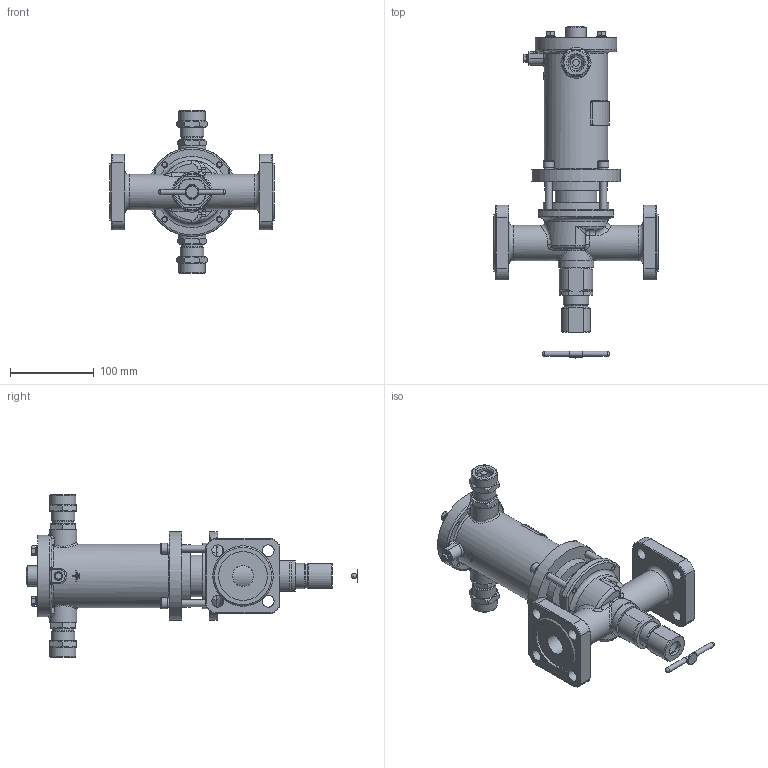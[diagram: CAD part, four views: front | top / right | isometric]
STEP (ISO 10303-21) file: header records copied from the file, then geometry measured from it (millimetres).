
FILE_DESCRIPTION(('STEP AP203'), '1');
FILE_NAME('ÑÅÍÑ DN25PN25-Â-ÑÂ.stp', '2018-09-19T08:43:43', ('Îðëîâ Å.Â.'), ('ÎÎÎ ÍÏÏ Ñåíñîð'), 'ASCON STEP Converter 1.3', 'Kompas 3D', '');
FILE_SCHEMA(('CONFIG_CONTROL_DESIGN','SUPPORT_RESOURCE_SCHEMA'));
Length unit declared in the file: millimetre
Products named in the file (1): 43
Bounding box: 196 x 395.5 x 194 mm (x, y, z)
Volume: 402804 mm3; surface area: 321257.5 mm2
Topology: 18 solids, 19 shells, 1990 faces, 5261 edges, 3412 vertices
Faces by surface type: cylinder 1013, plane 726, cone 126, torus 57, bspline 50, extrusion 16, sphere 2
Full cylindrical faces by diameter (mm): 3.5 x2, 4.134 x1, 4.917 x4, 5 x1, 6 x15, 6.5 x4, 6.647 x4, 8 x8, 8.2 x1, 9 x4, 10 x1, 11 x1, 12 x4, 13 x6, 14 x8, 16 x3, 17 x2, 18 x1, 18.632 x2, 19.9 x1, 20 x3, 22 x2, 22.376 x2, 23 x1, 23.5 x2, 24 x3, 24.5 x2, 25 x2, 26 x4, 26.376 x2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
Entity records: 77097 total; most frequent: CARTESIAN_POINT 26682, DIRECTION 10919, ORIENTED_EDGE 10477, EDGE_CURVE 5240, AXIS2_PLACEMENT_3D 4208, VERTEX_POINT 3412, VECTOR 2503, LINE 2487
